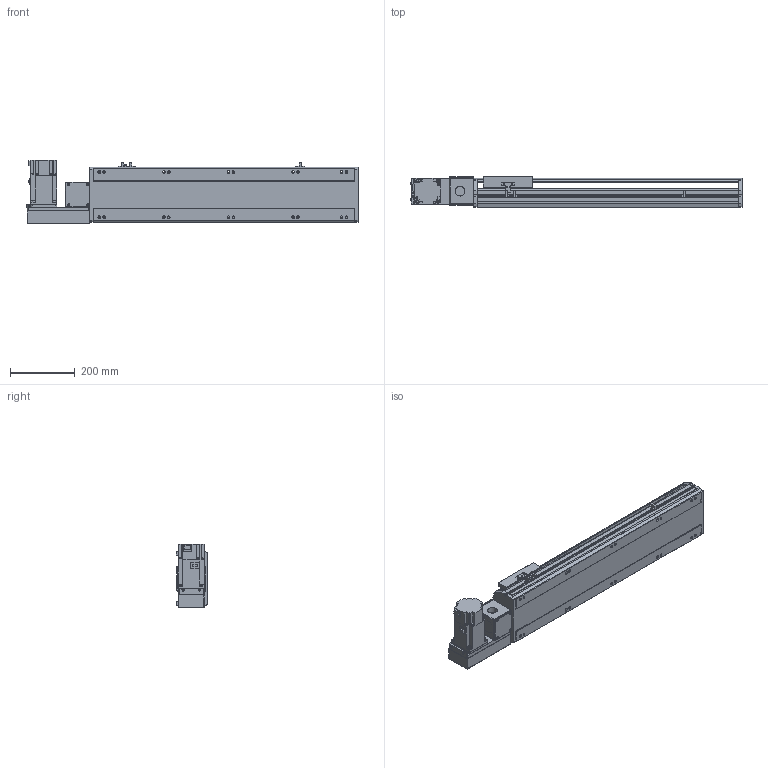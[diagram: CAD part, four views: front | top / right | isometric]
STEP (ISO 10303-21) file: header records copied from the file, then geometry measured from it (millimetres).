
FILE_DESCRIPTION( ( 'STEP AP214' ), '1' );
FILE_NAME( 'x:/temp/worker_4/temp/exporttempdir_2248_196_Byv7i/format_0/PBS170-P40-S550-L-T75-C1-N(0).stp', '2022-06-07T06:34:07', ( 'License CC BY-ND 4.0' ), ( 'CADENAS' ), ' ', 'PARTsolutions', ' ' );
FILE_SCHEMA( ( 'AUTOMOTIVE_DESIGN { 1 0 10303 214 1 1 1 1 }' ) );
Length unit declared in the file: millimetre
Products named in the file (7): PBS170-P40-S550-L-T75-C1-N(0); _PBS170-S550()_body; _PBS170T-L_motors; _T75-p1; _PBS170_sliser; _PBS170_plant; _PBS170_sensor
Assembly tree (8 placements, depth 2):
  PBS170-P40-S550-L-T75-C1-N(0)
    _PBS170-S550()_body
    _PBS170T-L_motors
    _T75-p1
    _PBS170_sliser
    _PBS170_plant
    _PBS170_sensor  x3
Bounding box: 1028 x 97 x 197.3 mm (x, y, z)
Volume: 7784619.9 mm3; surface area: 1053094.8 mm2
Topology: 8 solids, 8 shells, 1034 faces, 2755 edges, 1796 vertices
Faces by surface type: plane 669, cylinder 315, cone 40, sphere 8, torus 2
Full cylindrical faces by diameter (mm): 3.242 x4, 4 x2, 4.4 x4, 4.5 x6, 4.917 x4, 6 x9, 6.647 x18, 7 x2, 7.5 x4, 8 x8, 8.5 x10, 10 x4, 10.5 x10, 11 x2, 30 x2, 40 x1, 70 x1
Entity records: 37814 total; most frequent: CARTESIAN_POINT 5717, DIRECTION 5090, ORIENTED_EDGE 4848, EDGE_CURVE 2424, AXIS2_PLACEMENT_3D 1747, VERTEX_POINT 1658, LINE 1596, VECTOR 1596
